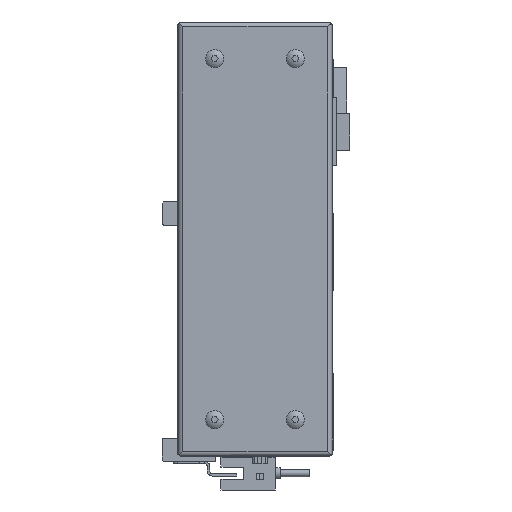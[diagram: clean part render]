
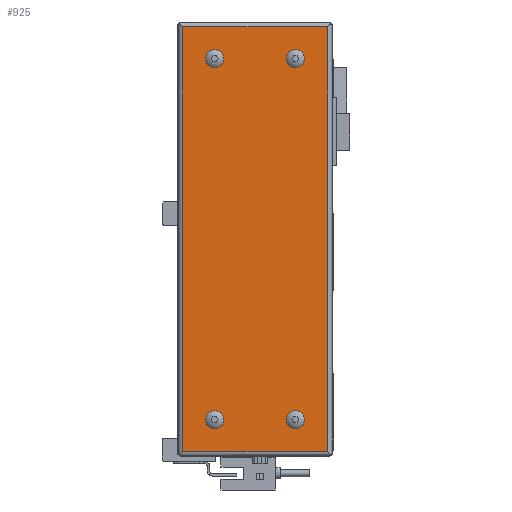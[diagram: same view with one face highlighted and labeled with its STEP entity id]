
A CAD part, left-side view. The second image highlights one B-rep face of the part: STEP entity #925.
In plain terms, the highlighted planar face has unit normal (-1, 0, 0).
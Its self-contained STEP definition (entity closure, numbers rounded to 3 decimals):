
#925 = ADVANCED_FACE( '', ( #2445, #2446, #2447, #2448, #2449 ), #2450, .F. );
#2445 = FACE_BOUND( '', #4788, .T. );
#2446 = FACE_BOUND( '', #4789, .T. );
#2447 = FACE_BOUND( '', #4790, .T. );
#2448 = FACE_BOUND( '', #4791, .T. );
#2449 = FACE_OUTER_BOUND( '', #4792, .T. );
#2450 = PLANE( '', #4793 );
#4788 = EDGE_LOOP( '', ( #7227 ) );
#4789 = EDGE_LOOP( '', ( #7228 ) );
#4790 = EDGE_LOOP( '', ( #7229 ) );
#4791 = EDGE_LOOP( '', ( #7230 ) );
#4792 = EDGE_LOOP( '', ( #7231, #7232, #7233, #7234 ) );
#4793 = AXIS2_PLACEMENT_3D( '', #7235, #7236, #7237 );
#7227 = ORIENTED_EDGE( '', *, *, #13620, .F. );
#7228 = ORIENTED_EDGE( '', *, *, #13621, .F. );
#7229 = ORIENTED_EDGE( '', *, *, #13622, .F. );
#7230 = ORIENTED_EDGE( '', *, *, #13623, .F. );
#7231 = ORIENTED_EDGE( '', *, *, #13624, .F. );
#7232 = ORIENTED_EDGE( '', *, *, #13625, .F. );
#7233 = ORIENTED_EDGE( '', *, *, #13626, .T. );
#7234 = ORIENTED_EDGE( '', *, *, #13627, .T. );
#7235 = CARTESIAN_POINT( '', ( -52., 0., 0. ) );
#7236 = DIRECTION( '', ( 1., 0., 0. ) );
#7237 = DIRECTION( '', ( 0., 0., -1. ) );
#13620 = EDGE_CURVE( '', #16224, #16224, #16225, .F. );
#13621 = EDGE_CURVE( '', #16226, #16226, #16227, .F. );
#13622 = EDGE_CURVE( '', #16228, #16228, #16229, .F. );
#13623 = EDGE_CURVE( '', #16230, #16230, #16231, .F. );
#13624 = EDGE_CURVE( '', #16232, #16233, #16234, .T. );
#13625 = EDGE_CURVE( '', #16235, #16232, #16236, .T. );
#13626 = EDGE_CURVE( '', #16235, #16237, #16238, .T. );
#13627 = EDGE_CURVE( '', #16237, #16233, #16239, .T. );
#16224 = VERTEX_POINT( '', #20170 );
#16225 = CIRCLE( '', #20171, 3.7 );
#16226 = VERTEX_POINT( '', #20172 );
#16227 = CIRCLE( '', #20173, 3.7 );
#16228 = VERTEX_POINT( '', #20174 );
#16229 = CIRCLE( '', #20175, 3.7 );
#16230 = VERTEX_POINT( '', #20176 );
#16231 = CIRCLE( '', #20177, 3.7 );
#16232 = VERTEX_POINT( '', #20178 );
#16233 = VERTEX_POINT( '', #20179 );
#16234 = LINE( '', #20180, #20181 );
#16235 = VERTEX_POINT( '', #20182 );
#16236 = LINE( '', #20183, #20184 );
#16237 = VERTEX_POINT( '', #20185 );
#16238 = LINE( '', #20186, #20187 );
#16239 = LINE( '', #20188, #20189 );
#20170 = CARTESIAN_POINT( '', ( -52., 15.5, 107.8 ) );
#20171 = AXIS2_PLACEMENT_3D( '', #25487, #25488, #25489 );
#20172 = CARTESIAN_POINT( '', ( -52., 15.5, -39.7 ) );
#20173 = AXIS2_PLACEMENT_3D( '', #25490, #25491, #25492 );
#20174 = CARTESIAN_POINT( '', ( -52., 48.5, 107.8 ) );
#20175 = AXIS2_PLACEMENT_3D( '', #25493, #25494, #25495 );
#20176 = CARTESIAN_POINT( '', ( -52., 48.5, -39.7 ) );
#20177 = AXIS2_PLACEMENT_3D( '', #25496, #25497, #25498 );
#20178 = CARTESIAN_POINT( '', ( -52., 2.5, 124.5 ) );
#20179 = CARTESIAN_POINT( '', ( -52., 2.5, -49. ) );
#20180 = CARTESIAN_POINT( '', ( -52., 2.5, 177.5 ) );
#20181 = VECTOR( '', #25499, 1000. );
#20182 = CARTESIAN_POINT( '', ( -52., 61.5, 124.5 ) );
#20183 = CARTESIAN_POINT( '', ( -52., 177.5, 124.5 ) );
#20184 = VECTOR( '', #25500, 1000. );
#20185 = CARTESIAN_POINT( '', ( -52., 61.5, -49. ) );
#20186 = CARTESIAN_POINT( '', ( -52., 61.5, 177.5 ) );
#20187 = VECTOR( '', #25501, 1000. );
#20188 = CARTESIAN_POINT( '', ( -52., 177.5, -49. ) );
#20189 = VECTOR( '', #25502, 1000. );
#25487 = CARTESIAN_POINT( '', ( -52., 15.5, 111.5 ) );
#25488 = DIRECTION( '', ( 1., 0., 0. ) );
#25489 = DIRECTION( '', ( 0., 0., -1. ) );
#25490 = CARTESIAN_POINT( '', ( -52., 15.5, -36. ) );
#25491 = DIRECTION( '', ( 1., 0., 0. ) );
#25492 = DIRECTION( '', ( 0., 0., -1. ) );
#25493 = CARTESIAN_POINT( '', ( -52., 48.5, 111.5 ) );
#25494 = DIRECTION( '', ( 1., 0., 0. ) );
#25495 = DIRECTION( '', ( 0., 0., -1. ) );
#25496 = CARTESIAN_POINT( '', ( -52., 48.5, -36. ) );
#25497 = DIRECTION( '', ( 1., 0., 0. ) );
#25498 = DIRECTION( '', ( 0., 0., -1. ) );
#25499 = DIRECTION( '', ( 0., 0., -1. ) );
#25500 = DIRECTION( '', ( 0., -1., 0. ) );
#25501 = DIRECTION( '', ( 0., 0., -1. ) );
#25502 = DIRECTION( '', ( 0., -1., 0. ) );
